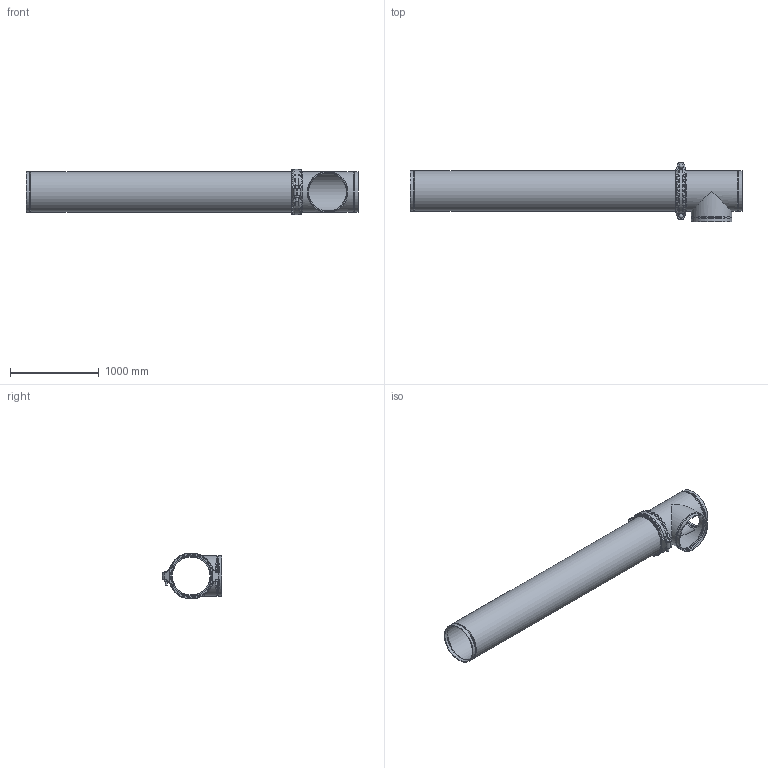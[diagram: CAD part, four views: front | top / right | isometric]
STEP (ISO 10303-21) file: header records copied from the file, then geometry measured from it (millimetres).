
FILE_DESCRIPTION(/* description */ ('VIC AGS LONG RUN FITTING No WR25 (AGS)','CAx-IF Rec.Pracs.---Representation and Presentation of Product Manufacturing Information (PMI)---4.0---2014-10-13'),/* implementation_level */ '2;1');
FILE_NAME(/* name */ 'C:\Users\kkamble\AppData\Roaming\Autodesk\ApplicationPlugins\Back Up\Victaulic_AGS_Long Run Fittings_No WR25 (AGS)\Victaulic_AGS_Long Run Fittings_No WR25 (AGS)_18 (450).stp',/* time_stamp */ '2020-10-07T03:12:29+06:00',/* author */ ('kkamble'),/* organization */ ('Victaulic'),/* preprocessor_version */ 'ST-DEVELOPER v17.2',/* originating_system */ 'Autodesk Inventor 2019',/* authorisation */ '');
FILE_SCHEMA (('AP242_MANAGED_MODEL_BASED_3D_ENGINEERING_MIM_LF { 1 0 10303 442 1 1 4 }'));
Length unit declared in the file: inch
Products named in the file (4): WR25-18.0; WR25-18.0_1; W77-18.0; W20-18.0
Assembly tree (3 placements, depth 2):
  WR25-18.0
    WR25-18.0_1
    W77-18.0
    W20-18.0
Bounding box: 3741.67 x 666.75 x 517.61 mm (x, y, z)
Volume: 56604090.9 mm3; surface area: 11345893.1 mm2
Topology: 3 solids, 5 shells, 340 faces, 1013 edges, 697 vertices
Faces by surface type: cylinder 161, plane 108, torus 56, cone 13, sphere 2
Full cylindrical faces by diameter (mm): 25.4 x4, 42.85 x2, 425.45 x3, 431.8 x1, 438.15 x6, 444.5 x5, 457.2 x10
Entity records: 14282 total; most frequent: CARTESIAN_POINT 4493, ORIENTED_EDGE 2026, DIRECTION 1956, EDGE_CURVE 1013, AXIS2_PLACEMENT_3D 788, VERTEX_POINT 697, CIRCLE 431, LINE 380
